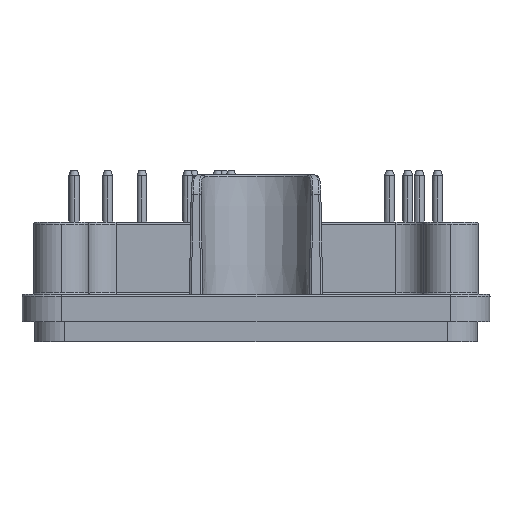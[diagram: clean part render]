
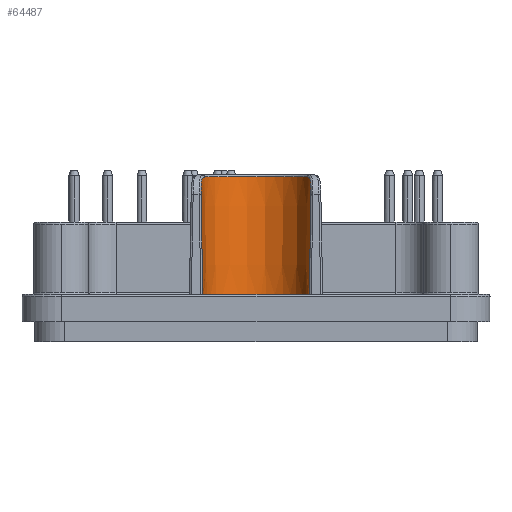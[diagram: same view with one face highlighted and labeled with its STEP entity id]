
A CAD part, left-side view. The second image highlights one B-rep face of the part: STEP entity #64487.
In plain terms, the highlighted conical face has half-angle 1 degrees and reference radius 5.453 mm.
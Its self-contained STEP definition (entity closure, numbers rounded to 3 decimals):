
#58752=CARTESIAN_POINT('',(1.598,14.535,
-13.368));
#60204=CARTESIAN_POINT('',(1.236,16.303,
-18.881));
#60205=DIRECTION('',(0.,1.,0.));
#60206=DIRECTION('',(1.,0.,0.));
#60207=AXIS2_PLACEMENT_3D('',#60204,#60205,#60206);
#60209=CARTESIAN_POINT('',(1.236,16.303,
-18.881));
#60210=DIRECTION('',(0.,1.,0.));
#60211=DIRECTION('',(0.378,0.,0.926));
#60212=AXIS2_PLACEMENT_3D('',#60209,#60210,#60211);
#60214=CARTESIAN_POINT('',(1.429,4.5,
-13.534));
#60215=CARTESIAN_POINT('',(1.819,4.496,
-13.548));
#60216=CARTESIAN_POINT('',(2.597,4.502,
-13.663));
#60217=CARTESIAN_POINT('',(3.7,4.5,
-14.084));
#60218=CARTESIAN_POINT('',(4.684,4.5,
-14.734));
#60219=CARTESIAN_POINT('',(5.503,4.5,
-15.584));
#60220=CARTESIAN_POINT('',(6.118,4.5,
-16.591));
#60221=CARTESIAN_POINT('',(6.499,4.5,
-17.708));
#60222=CARTESIAN_POINT('',(6.586,4.5,
-18.49));
#60223=CARTESIAN_POINT('',(6.586,4.5,
-18.881));
#60225=CARTESIAN_POINT('',(6.586,4.5,
-18.881));
#60226=CARTESIAN_POINT('',(6.586,4.5,
-19.272));
#60227=CARTESIAN_POINT('',(6.499,4.5,
-20.054));
#60228=CARTESIAN_POINT('',(6.118,4.5,
-21.17));
#60229=CARTESIAN_POINT('',(5.503,4.5,
-22.178));
#60230=CARTESIAN_POINT('',(4.684,4.5,
-23.027));
#60231=CARTESIAN_POINT('',(3.7,4.5,
-23.678));
#60232=CARTESIAN_POINT('',(2.597,4.502,
-24.099));
#60233=CARTESIAN_POINT('',(1.819,4.496,
-24.213));
#60234=CARTESIAN_POINT('',(1.429,4.5,
-24.227));
#60236=CARTESIAN_POINT('',(1.429,4.5,
-24.227));
#60237=CARTESIAN_POINT('',(1.447,5.618,
-24.246));
#60238=CARTESIAN_POINT('',(1.484,7.851,
-24.284));
#60239=CARTESIAN_POINT('',(1.542,11.196,
-24.338));
#60240=CARTESIAN_POINT('',(1.579,13.422,
-24.375));
#60241=CARTESIAN_POINT('',(1.598,14.535,
-24.394));
#60243=CARTESIAN_POINT('',(1.598,14.535,
-24.394));
#60244=CARTESIAN_POINT('',(1.6,14.653,
-24.396));
#60245=CARTESIAN_POINT('',(1.626,14.89,
-24.399));
#60246=CARTESIAN_POINT('',(1.715,15.173,
-24.397));
#60247=CARTESIAN_POINT('',(1.817,15.385,
-24.39));
#60248=CARTESIAN_POINT('',(1.907,15.535,
-24.383));
#60249=CARTESIAN_POINT('',(2.013,15.676,
-24.371));
#60250=CARTESIAN_POINT('',(2.13,15.805,
-24.356));
#60251=CARTESIAN_POINT('',(2.259,15.92,
-24.335));
#60252=CARTESIAN_POINT('',(2.397,16.022,
-24.309));
#60253=CARTESIAN_POINT('',(2.544,16.109,
-24.278));
#60254=CARTESIAN_POINT('',(2.747,16.204,
-24.227));
#60255=CARTESIAN_POINT('',(3.012,16.283,
-24.148));
#60256=CARTESIAN_POINT('',(3.229,16.303,
-24.068));
#60257=CARTESIAN_POINT('',(3.335,16.303,
-24.025));
#60259=CARTESIAN_POINT('',(3.335,16.303,
-13.737));
#60260=CARTESIAN_POINT('',(3.229,16.303,
-13.693));
#60261=CARTESIAN_POINT('',(3.014,16.283,
-13.614));
#60262=CARTESIAN_POINT('',(2.748,16.205,
-13.534));
#60263=CARTESIAN_POINT('',(2.545,16.11,
-13.484));
#60264=CARTESIAN_POINT('',(2.4,16.024,
-13.452));
#60265=CARTESIAN_POINT('',(2.261,15.922,
-13.426));
#60266=CARTESIAN_POINT('',(2.131,15.806,
-13.406));
#60267=CARTESIAN_POINT('',(2.014,15.678,
-13.39));
#60268=CARTESIAN_POINT('',(1.909,15.537,
-13.379));
#60269=CARTESIAN_POINT('',(1.818,15.386,
-13.371));
#60270=CARTESIAN_POINT('',(1.716,15.175,
-13.365));
#60271=CARTESIAN_POINT('',(1.627,14.892,
-13.363));
#60272=CARTESIAN_POINT('',(1.6,14.654,
-13.366));
#60273=CARTESIAN_POINT('',(1.598,14.535,
-13.368));
#60275=CARTESIAN_POINT('',(1.598,14.535,
-13.368));
#60276=CARTESIAN_POINT('',(1.579,13.422,
-13.386));
#60277=CARTESIAN_POINT('',(1.542,11.196,
-13.424));
#60278=CARTESIAN_POINT('',(1.484,7.851,
-13.478));
#60279=CARTESIAN_POINT('',(1.448,5.618,
-13.516));
#60280=CARTESIAN_POINT('',(1.429,4.5,
-13.534));
#61536=VERTEX_POINT('',#58752);
#61540=CARTESIAN_POINT('',(3.335,16.303,
-13.737));
#61542=VERTEX_POINT('',#61540);
#61544=CARTESIAN_POINT('',(6.792,16.303,
-18.881));
#61545=CARTESIAN_POINT('',(3.335,16.303,
-24.025));
#61546=VERTEX_POINT('',#61544);
#61547=VERTEX_POINT('',#61545);
#61552=VERTEX_POINT('',#60243);
#62174=VERTEX_POINT('',#60214);
#62175=VERTEX_POINT('',#60223);
#62176=VERTEX_POINT('',#60234);
#64468=CARTESIAN_POINT('',(1.236,10.402,
-18.881));
#64469=DIRECTION('',(0.,1.,0.));
#64470=DIRECTION('',(-1.,0.,0.));
#64471=AXIS2_PLACEMENT_3D('',#64468,#64469,#64470);
#64472=CONICAL_SURFACE('',#64471,5.453,1.);
#64474=ORIENTED_EDGE('',*,*,#64473,.T.);
#64476=ORIENTED_EDGE('',*,*,#64475,.T.);
#64478=ORIENTED_EDGE('',*,*,#64477,.T.);
#64480=ORIENTED_EDGE('',*,*,#64479,.T.);
#64481=ORIENTED_EDGE('',*,*,#64456,.F.);
#64482=ORIENTED_EDGE('',*,*,#64463,.F.);
#64483=ORIENTED_EDGE('',*,*,#64446,.T.);
#64484=ORIENTED_EDGE('',*,*,#62216,.T.);
#64485=EDGE_LOOP('',(#64474,#64476,#64478,#64480,#64481,#64482,#64483,#64484));
#64486=FACE_OUTER_BOUND('',#64485,.F.);
#64487=ADVANCED_FACE('',(#64486),#64472,.F.);
#60208=CIRCLE('',#60207,5.556);
#60213=CIRCLE('',#60212,5.556);
#60224=B_SPLINE_CURVE_WITH_KNOTS('',3,(#60214,#60215,#60216,#60217,#60218,
#60219,#60220,#60221,#60222,#60223),.UNSPECIFIED.,.F.,.F.,(4,1,1,1,1,1,1,4),(
0.,0.143,0.286,0.429,0.571,
0.714,0.857,1.),.UNSPECIFIED.);
#60235=B_SPLINE_CURVE_WITH_KNOTS('',3,(#60225,#60226,#60227,#60228,#60229,
#60230,#60231,#60232,#60233,#60234),.UNSPECIFIED.,.F.,.F.,(4,1,1,1,1,1,1,4),(
0.,0.143,0.286,0.429,0.571,
0.714,0.857,1.),.UNSPECIFIED.);
#60242=B_SPLINE_CURVE_WITH_KNOTS('',3,(#60236,#60237,#60238,#60239,#60240,
#60241),.UNSPECIFIED.,.F.,.F.,(4,1,1,4),(0.,0.333,
0.667,1.),.UNSPECIFIED.);
#60258=B_SPLINE_CURVE_WITH_KNOTS('',3,(#60243,#60244,#60245,#60246,#60247,
#60248,#60249,#60250,#60251,#60252,#60253,#60254,#60255,#60256,#60257),
.UNSPECIFIED.,.F.,.F.,(4,1,1,1,1,1,1,1,1,1,1,1,4),(0.,0.125,
0.25,0.313,0.375,0.438,
0.5,0.563,0.625,0.688,
0.75,0.875,1.),.UNSPECIFIED.);
#60274=B_SPLINE_CURVE_WITH_KNOTS('',3,(#60259,#60260,#60261,#60262,#60263,
#60264,#60265,#60266,#60267,#60268,#60269,#60270,#60271,#60272,#60273),
.UNSPECIFIED.,.F.,.F.,(4,1,1,1,1,1,1,1,1,1,1,1,4),(0.,0.125,
0.25,0.312,0.375,0.437,
0.5,0.562,0.625,0.687,
0.75,0.875,1.),.UNSPECIFIED.);
#60281=B_SPLINE_CURVE_WITH_KNOTS('',3,(#60275,#60276,#60277,#60278,#60279,
#60280),.UNSPECIFIED.,.F.,.F.,(4,1,1,4),(0.,0.333,
0.667,1.),.UNSPECIFIED.);
#62216=EDGE_CURVE('',#61536,#62174,#60281,.T.);
#64446=EDGE_CURVE('',#61542,#61536,#60274,.T.);
#64456=EDGE_CURVE('',#61546,#61547,#60208,.T.);
#64463=EDGE_CURVE('',#61542,#61546,#60213,.T.);
#64473=EDGE_CURVE('',#62174,#62175,#60224,.T.);
#64475=EDGE_CURVE('',#62175,#62176,#60235,.T.);
#64477=EDGE_CURVE('',#62176,#61552,#60242,.T.);
#64479=EDGE_CURVE('',#61552,#61547,#60258,.T.);
